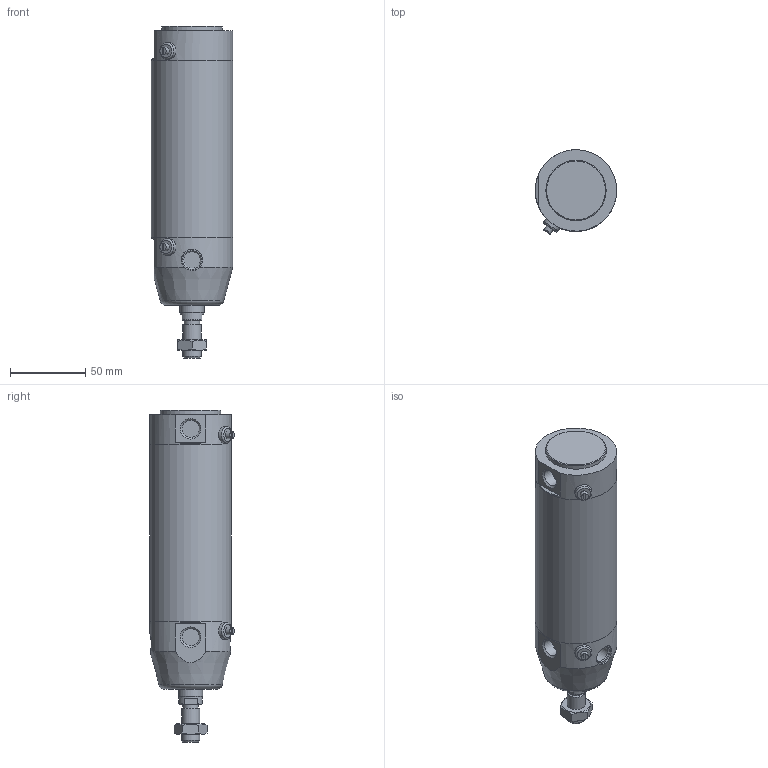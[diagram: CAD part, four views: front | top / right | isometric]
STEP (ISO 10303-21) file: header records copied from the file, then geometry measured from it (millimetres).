
FILE_DESCRIPTION(/* description */ (''),/* implementation_level */ '2;1');
FILE_NAME(/* name */ 'I:\Area Tecnica\Documenti\A-Manieri\_Inventor\12X\12X#E_###_####_#_#\12XBE_050_0075_#_#.stp',/* time_stamp */ '2015-05-08T13:57:51+02:00',/* author */ ('maniean1'),/* organization */ ('Pneumax S.p.A.'),/* preprocessor_version */ 'ST-DEVELOPER v15.2',/* originating_system */ 'Autodesk Inventor 2014',/* authorisation */ '');
FILE_SCHEMA (('AUTOMOTIVE_DESIGN { 1 0 10303 214 3 1 1 }'));
Length unit declared in the file: millimetre
Products named in the file (6): C1250_619-0075; 12X50_623; S12X50_0075; 12X_50_11; 12X50_612; 12XBE_050_0075_#_#
Bounding box: 54 x 55.88 x 220 mm (x, y, z)
Volume: 278994.2 mm3; surface area: 80174.9 mm2
Topology: 5 solids, 5 shells, 83 faces, 174 edges, 112 vertices
Faces by surface type: plane 45, cylinder 22, cone 13, torus 3
Full cylindrical faces by diameter (mm): 5 x2, 10.2 x1, 10.9 x2, 11 x2, 11.4 x2, 12 x2, 14 x1, 14.1 x2, 15.6 x1, 16 x1, 40 x1, 50 x2, 54 x3
Entity records: 2203 total; most frequent: CARTESIAN_POINT 508, DIRECTION 359, ORIENTED_EDGE 254, AXIS2_PLACEMENT_3D 161, EDGE_LOOP 136, EDGE_CURVE 127, VERTEX_POINT 101, ADVANCED_FACE 83
